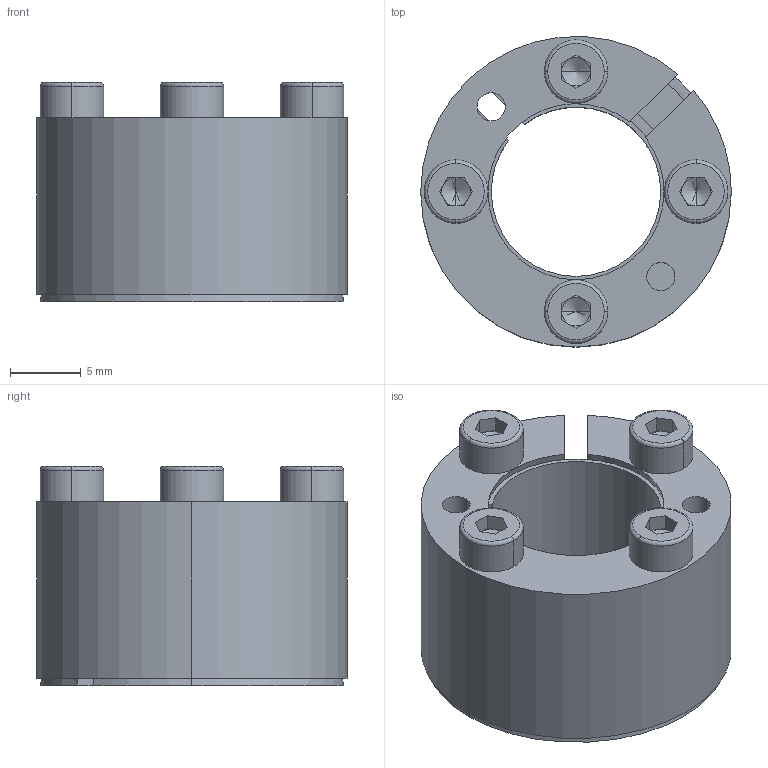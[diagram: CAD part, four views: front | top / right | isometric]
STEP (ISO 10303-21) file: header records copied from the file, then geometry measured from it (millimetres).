
FILE_DESCRIPTION (( 'STEP AP214' ), '1' );
FILE_NAME ('CONEX-K-12x22.step', '2013-04-06T13:20:27', ( 'Pc' ), ( '' ), 'SwSTEP 2.0', 'SolidWorks 2013', '' );
FILE_SCHEMA (( 'AUTOMOTIVE_DESIGN' ));
Length unit declared in the file: millimetre
Products named in the file (1): CONEX-K-12x22
Bounding box: 22 x 21.98 x 15.51 mm (x, y, z)
Volume: 2736.6 mm3; surface area: 4426.2 mm2
Topology: 6 solids, 6 shells, 162 faces, 378 edges, 228 vertices
Faces by surface type: plane 70, cylinder 48, cone 28, torus 16
Entity records: 6473 total; most frequent: DIRECTION 866, CARTESIAN_POINT 785, ORIENTED_EDGE 740, EDGE_CURVE 370, AXIS2_PLACEMENT_3D 341, VERTEX_POINT 228, EDGE_LOOP 190, VECTOR 184
